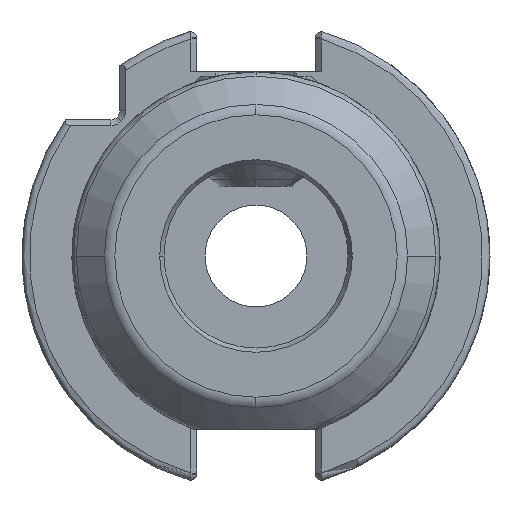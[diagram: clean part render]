
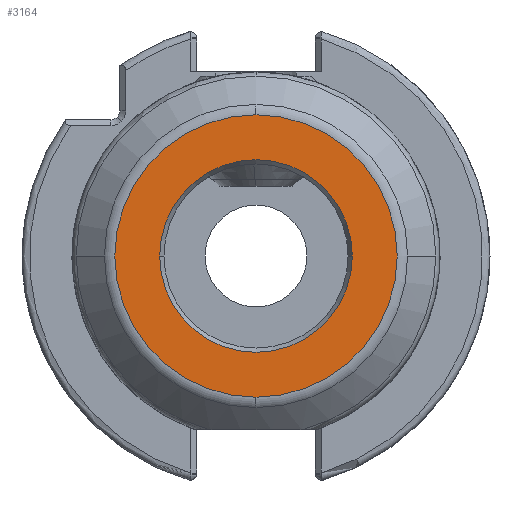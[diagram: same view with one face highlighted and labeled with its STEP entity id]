
A CAD part, front view. The second image highlights one B-rep face of the part: STEP entity #3164.
In plain terms, the highlighted planar face has unit normal (0, -1, 0).
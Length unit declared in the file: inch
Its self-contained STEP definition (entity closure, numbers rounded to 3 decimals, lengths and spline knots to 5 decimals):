
#65 = CARTESIAN_POINT ( 'NONE',  ( 0., -2.48031, 0.75479 ) ) ;
#158 = DIRECTION ( 'NONE',  ( 0., 0., -1. ) ) ;
#631 = AXIS2_PLACEMENT_3D ( 'NONE', #11168, #7851, #7623 ) ;
#1066 = FACE_BOUND ( 'NONE', #13320, .T. ) ;
#1160 = EDGE_CURVE ( 'NONE', #5874, #4617, #7828, .T. ) ;
#1453 = EDGE_CURVE ( 'NONE', #12551, #3351, #12892, .T. ) ;
#2100 = ORIENTED_EDGE ( 'NONE', *, *, #5109, .F. ) ;
#2424 = DIRECTION ( 'NONE',  ( -1., 0., 0. ) ) ;
#2579 = DIRECTION ( 'NONE',  ( 0., -1., 0. ) ) ;
#2700 = CIRCLE ( 'NONE', #14574, 0.51486 ) ;
#3164 = ADVANCED_FACE ( 'NONE', ( #1066, #10365 ), #14968, .T. ) ;
#3351 = VERTEX_POINT ( 'NONE', #10171 ) ;
#4334 = CARTESIAN_POINT ( 'NONE',  ( 0., -2.48031, 0. ) ) ;
#4412 = DIRECTION ( 'NONE',  ( -1., 0., 0. ) ) ;
#4617 = VERTEX_POINT ( 'NONE', #12423 ) ;
#5109 = EDGE_CURVE ( 'NONE', #4617, #5874, #13238, .T. ) ;
#5874 = VERTEX_POINT ( 'NONE', #65 ) ;
#6042 = ORIENTED_EDGE ( 'NONE', *, *, #1453, .F. ) ;
#6381 = DIRECTION ( 'NONE',  ( 0., -1., 0. ) ) ;
#7248 = EDGE_LOOP ( 'NONE', ( #2100, #10040 ) ) ;
#7391 = CARTESIAN_POINT ( 'NONE',  ( 0., -2.48031, 0. ) ) ;
#7623 = DIRECTION ( 'NONE',  ( -1., 0., 0. ) ) ;
#7828 = CIRCLE ( 'NONE', #9763, 0.75479 ) ;
#7851 = DIRECTION ( 'NONE',  ( 0., 1., 0. ) ) ;
#8466 = DIRECTION ( 'NONE',  ( 0., -1., 0. ) ) ;
#9047 = AXIS2_PLACEMENT_3D ( 'NONE', #7391, #2579, #10780 ) ;
#9456 = EDGE_CURVE ( 'NONE', #3351, #12551, #2700, .T. ) ;
#9508 = CARTESIAN_POINT ( 'NONE',  ( 0., -2.48031, 0. ) ) ;
#9763 = AXIS2_PLACEMENT_3D ( 'NONE', #4334, #12668, #4412 ) ;
#10040 = ORIENTED_EDGE ( 'NONE', *, *, #1160, .F. ) ;
#10171 = CARTESIAN_POINT ( 'NONE',  ( 0.51486, -2.48031, 0. ) ) ;
#10354 = ORIENTED_EDGE ( 'NONE', *, *, #9456, .F. ) ;
#10365 = FACE_OUTER_BOUND ( 'NONE', #7248, .T. ) ;
#10531 = AXIS2_PLACEMENT_3D ( 'NONE', #10932, #6381, #158 ) ;
#10780 = DIRECTION ( 'NONE',  ( -1., 0., 0. ) ) ;
#10932 = CARTESIAN_POINT ( 'NONE',  ( 0., -2.48031, 0. ) ) ;
#11168 = CARTESIAN_POINT ( 'NONE',  ( 0., -2.48031, 0. ) ) ;
#12423 = CARTESIAN_POINT ( 'NONE',  ( 0., -2.48031, -0.75479 ) ) ;
#12551 = VERTEX_POINT ( 'NONE', #12700 ) ;
#12668 = DIRECTION ( 'NONE',  ( 0., 1., 0. ) ) ;
#12700 = CARTESIAN_POINT ( 'NONE',  ( -0.51486, -2.48031, 0. ) ) ;
#12892 = CIRCLE ( 'NONE', #9047, 0.51486 ) ;
#13238 = CIRCLE ( 'NONE', #631, 0.75479 ) ;
#13320 = EDGE_LOOP ( 'NONE', ( #6042, #10354 ) ) ;
#14574 = AXIS2_PLACEMENT_3D ( 'NONE', #9508, #8466, #2424 ) ;
#14968 = PLANE ( 'NONE',  #10531 ) ;
